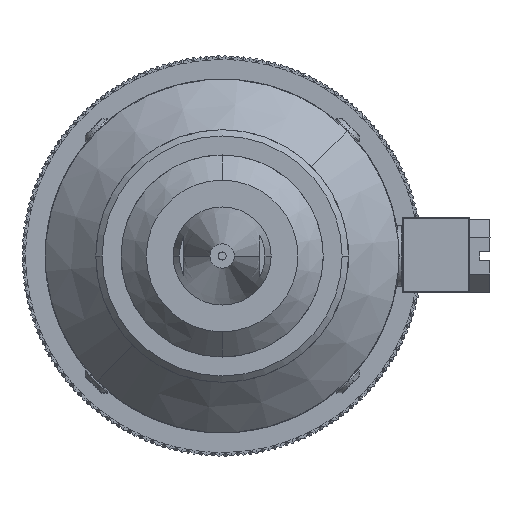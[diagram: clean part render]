
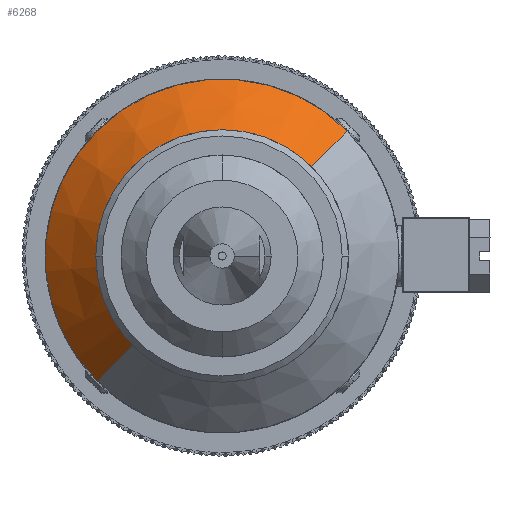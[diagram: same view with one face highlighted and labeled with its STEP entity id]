
A CAD part, front view. The second image highlights one B-rep face of the part: STEP entity #6268.
In plain terms, the highlighted conical face has half-angle 45 degrees and reference radius 15.875 mm.
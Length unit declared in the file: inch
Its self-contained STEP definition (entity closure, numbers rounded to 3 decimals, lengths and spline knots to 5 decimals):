
#4457 = EDGE_CURVE ( 'NONE', #108832, #119293, #23717, .T. ) ;
#4956 = CARTESIAN_POINT ( 'NONE',  ( 0.04579, 0.39046, -0.00032 ) ) ;
#6268 = ADVANCED_FACE ( 'NONE', ( #117098 ), #77151, .T. ) ;
#11382 = VECTOR ( 'NONE', #134351, 39.37008 ) ;
#12191 = CARTESIAN_POINT ( 'NONE',  ( 0.04579, 0.39046, -0.00032 ) ) ;
#16945 = EDGE_CURVE ( 'NONE', #112693, #119293, #129481, .T. ) ;
#23717 = CIRCLE ( 'NONE', #120417, 0.875 ) ;
#23953 = DIRECTION ( 'NONE',  ( -0.707, 0., -0.707 ) ) ;
#24463 = AXIS2_PLACEMENT_3D ( 'NONE', #4956, #67474, #43439 ) ;
#30854 = EDGE_CURVE ( 'NONE', #93093, #112693, #113201, .T. ) ;
#34670 = CARTESIAN_POINT ( 'NONE',  ( 0.48774, 0.39046, 0.44163 ) ) ;
#43439 = DIRECTION ( 'NONE',  ( 0.707, 0., 0.707 ) ) ;
#49240 = ORIENTED_EDGE ( 'NONE', *, *, #16945, .F. ) ;
#55291 = LINE ( 'NONE', #148342, #11382 ) ;
#55321 = CARTESIAN_POINT ( 'NONE',  ( 0.04579, 0.64046, -0.00032 ) ) ;
#58671 = CARTESIAN_POINT ( 'NONE',  ( -0.39615, 0.39046, -0.44226 ) ) ;
#61739 = VECTOR ( 'NONE', #148977, 39.37008 ) ;
#67474 = DIRECTION ( 'NONE',  ( 0., -1., 0. ) ) ;
#71496 = CARTESIAN_POINT ( 'NONE',  ( -0.39615, 0.39046, -0.44226 ) ) ;
#77151 = CONICAL_SURFACE ( 'NONE', #83361, 0.625, 0.785 ) ;
#79526 = CARTESIAN_POINT ( 'NONE',  ( -0.57292, 0.64046, -0.61903 ) ) ;
#83361 = AXIS2_PLACEMENT_3D ( 'NONE', #12191, #113706, #23953 ) ;
#93093 = VERTEX_POINT ( 'NONE', #34670 ) ;
#95729 = ORIENTED_EDGE ( 'NONE', *, *, #30854, .F. ) ;
#108832 = VERTEX_POINT ( 'NONE', #115918 ) ;
#112693 = VERTEX_POINT ( 'NONE', #71496 ) ;
#113201 = CIRCLE ( 'NONE', #24463, 0.625 ) ;
#113706 = DIRECTION ( 'NONE',  ( 0., 1., 0. ) ) ;
#115918 = CARTESIAN_POINT ( 'NONE',  ( 0.66451, 0.64046, 0.6184 ) ) ;
#117098 = FACE_OUTER_BOUND ( 'NONE', #133564, .T. ) ;
#117687 = EDGE_CURVE ( 'NONE', #93093, #108832, #55291, .T. ) ;
#119293 = VERTEX_POINT ( 'NONE', #79526 ) ;
#119834 = ORIENTED_EDGE ( 'NONE', *, *, #117687, .T. ) ;
#120417 = AXIS2_PLACEMENT_3D ( 'NONE', #55321, #144466, #155674 ) ;
#129481 = LINE ( 'NONE', #58671, #61739 ) ;
#133564 = EDGE_LOOP ( 'NONE', ( #95729, #119834, #158658, #49240 ) ) ;
#134351 = DIRECTION ( 'NONE',  ( 0.5, 0.707, 0.5 ) ) ;
#144466 = DIRECTION ( 'NONE',  ( 0., -1., 0. ) ) ;
#148342 = CARTESIAN_POINT ( 'NONE',  ( 0.48774, 0.39046, 0.44163 ) ) ;
#148977 = DIRECTION ( 'NONE',  ( -0.5, 0.707, -0.5 ) ) ;
#155674 = DIRECTION ( 'NONE',  ( 0.707, 0., 0.707 ) ) ;
#158658 = ORIENTED_EDGE ( 'NONE', *, *, #4457, .T. ) ;
